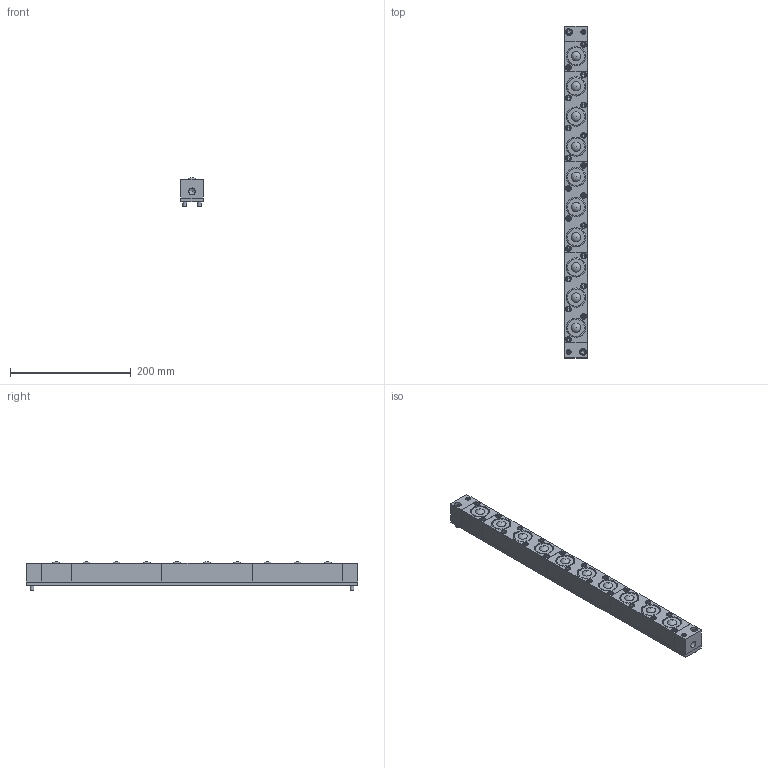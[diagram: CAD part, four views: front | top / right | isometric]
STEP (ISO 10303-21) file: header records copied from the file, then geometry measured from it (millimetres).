
FILE_DESCRIPTION(/* description */ (''),/* implementation_level */ '2;1');
FILE_NAME(/* name */ 'Z:\34-Tei\01-web 3Dデータ\07-ISR-C38型\ISR-C38-550-A.stp',/* time_stamp */ '2015-01-15T15:14:04+09:00',/* author */ ('yamaki'),/* organization */ (''),/* preprocessor_version */ 'ST-DEVELOPER v15.6',/* originating_system */ 'Autodesk Inventor 2015',/* authorisation */ '');
FILE_SCHEMA (('AUTOMOTIVE_DESIGN { 1 0 10303 214 3 1 1 }'));
Length unit declared in the file: millimetre
Products named in the file (6): 4100AT-01-550; 4501SL-01; 4500AT-00; JIS B 1176 - M6 x 35; 4501SL-03; ISR-C38
Bounding box: 38 x 550 x 48 mm (x, y, z)
Volume: 732202.3 mm3; surface area: 222910.4 mm2
Topology: 17 solids, 17 shells, 498 faces, 1049 edges, 674 vertices
Faces by surface type: plane 321, cylinder 93, cone 38, torus 36, sphere 10
Full cylindrical faces by diameter (mm): 6 x2, 7 x2, 7.5 x2, 8 x2, 8.5 x20, 9.5 x20, 10 x2, 10.5 x1, 11.5 x2, 31.5 x10, 32 x10, 35 x20
Entity records: 5493 total; most frequent: CARTESIAN_POINT 1019, DIRECTION 870, ORIENTED_EDGE 754, EDGE_CURVE 377, AXIS2_PLACEMENT_3D 326, EDGE_LOOP 314, VERTEX_POINT 277, LINE 218
